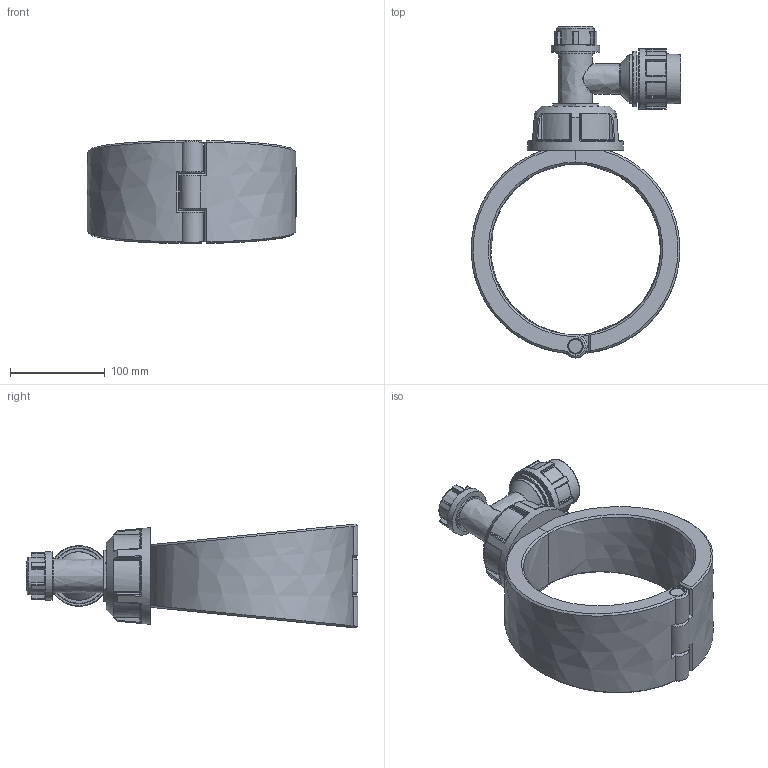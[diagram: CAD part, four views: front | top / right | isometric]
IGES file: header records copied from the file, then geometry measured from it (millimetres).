
Global section: file name: 1631061770320A; native system: Autodesk Inventor 2019; preprocessor: unknown; author: comp2; date: 20220203.115935; units: millimetre
Bounding box: 221 x 350 x 109.6 mm (x, y, z)
Volume: 1629672.9 mm3; surface area: 210953.9 mm2
Topology: 4 solids, 4 shells, 519 faces, 1253 edges, 754 vertices
Faces by surface type: bspline 519
